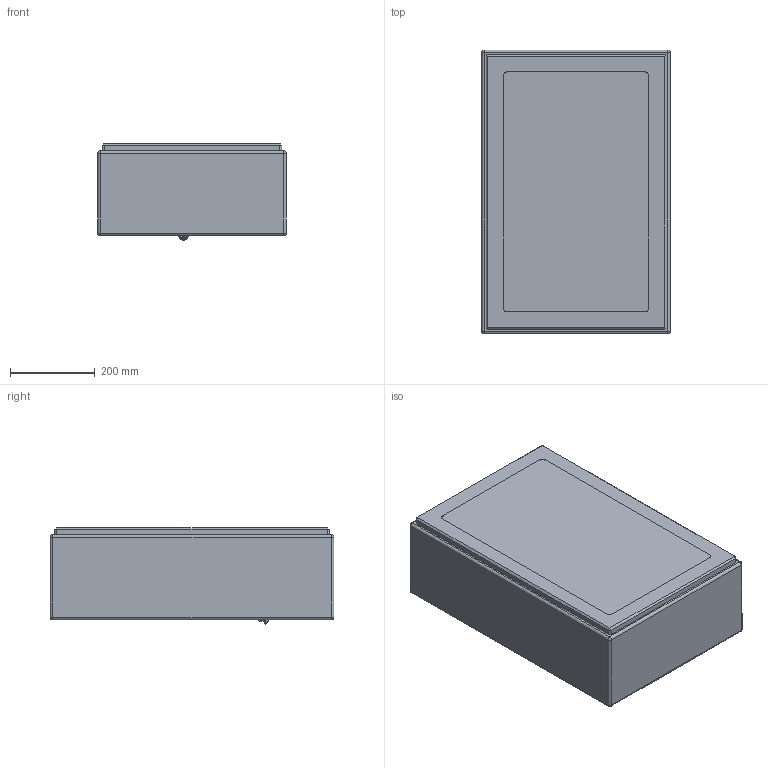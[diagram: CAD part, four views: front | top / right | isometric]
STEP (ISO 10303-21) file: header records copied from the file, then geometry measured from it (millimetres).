
FILE_DESCRIPTION(/* description */ ('','CAx-IF Rec.Pracs.---Representation and Presentation of Product Manufacturing Information (PMI)---4.0---2014-10-13'),/* implementation_level */ '2;1');
FILE_NAME(/* name */ 'THE12 PRO +PASSIVE+ACTIVE EXT+BE+ ON WALL.step',/* time_stamp */ '2024-12-20T15:37:56+01:00',/* author */ (''),/* organization */ (''),/* preprocessor_version */ 'ST-DEVELOPER v20',/* originating_system */ 'Autodesk Translation Framework v13.20.0.188',/* authorisation */ '');
FILE_SCHEMA (('AP242_MANAGED_MODEL_BASED_3D_ENGINEERING_MIM_LF { 1 0 10303 442 1 1 4 }'));
Products named in the file (3): The12 Be Pro_withPORT_holes; COMBINE_FullSpkr; COMBINE_Grille
Assembly tree (2 placements, depth 2):
  The12 Be Pro_withPORT_holes
    COMBINE_FullSpkr
    COMBINE_Grille
Bounding box: 444 x 668 x 226.68 mm (x, y, z)
Volume: 55755652.9 mm3; surface area: 1964130 mm2
Topology: 16 solids, 16 shells, 1910 faces, 4899 edges, 3132 vertices
Faces by surface type: plane 1060, cylinder 580, torus 147, cone 74, bspline 28, sphere 21
Full cylindrical faces by diameter (mm): 1.2 x3, 3 x10, 3.2 x4, 3.5 x4, 4 x16, 4.5 x6, 5 x1, 5.5 x6, 6 x10, 6.5 x16, 8 x4, 14.9 x1, 17.6 x1, 21 x1, 23.6 x3, 24 x2, 24.25 x1, 25.9 x1, 26.5 x1, 34 x4, 314 x1
Entity records: 61440 total; most frequent: CARTESIAN_POINT 13782, DIRECTION 9991, ORIENTED_EDGE 9774, EDGE_CURVE 4887, AXIS2_PLACEMENT_3D 3427, LINE 3137, VECTOR 3137, VERTEX_POINT 3133
